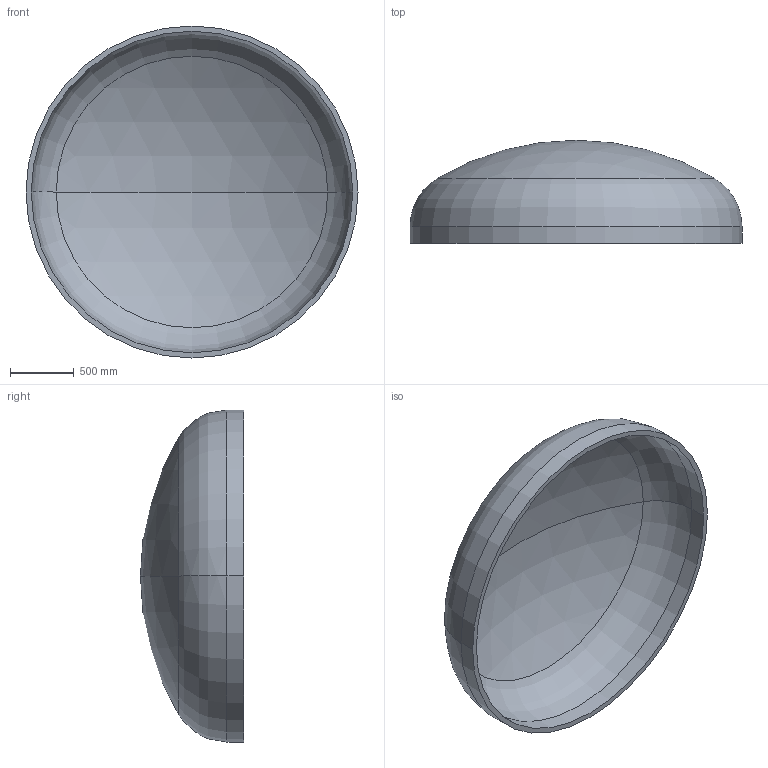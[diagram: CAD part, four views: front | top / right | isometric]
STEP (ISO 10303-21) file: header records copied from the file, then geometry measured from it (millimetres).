
FILE_DESCRIPTION (( 'STEP AP203' ), '1' );
FILE_NAME ('DIN 28013 Korbbogenform_-_Boden DIN 28013 - 2600 x 130 - I - s=41.step', '2016-07-01T16:11:02', ( '' ), ( '' ), 'SwSTEP 2.0', 'SolidWorks 2013', '' );
FILE_SCHEMA (( 'CONFIG_CONTROL_DESIGN' ));
Length unit declared in the file: millimetre
Products named in the file (1): DIN 28013 Korbbogenform_-_Boden DIN 28013 - 2600 x 130 - I - s=41
Bounding box: 2600 x 807.21 x 2600 mm (x, y, z)
Volume: 338065469 mm3; surface area: 16824126.4 mm2
Topology: 1 solids, 1 shells, 13 faces, 24 edges, 14 vertices
Faces by surface type: torus 4, cylinder 4, sphere 4, plane 1
Entity records: 407 total; most frequent: DIRECTION 72, CARTESIAN_POINT 52, ORIENTED_EDGE 48, AXIS2_PLACEMENT_3D 34, EDGE_CURVE 24, CIRCLE 20, VERTEX_POINT 14, EDGE_LOOP 14
